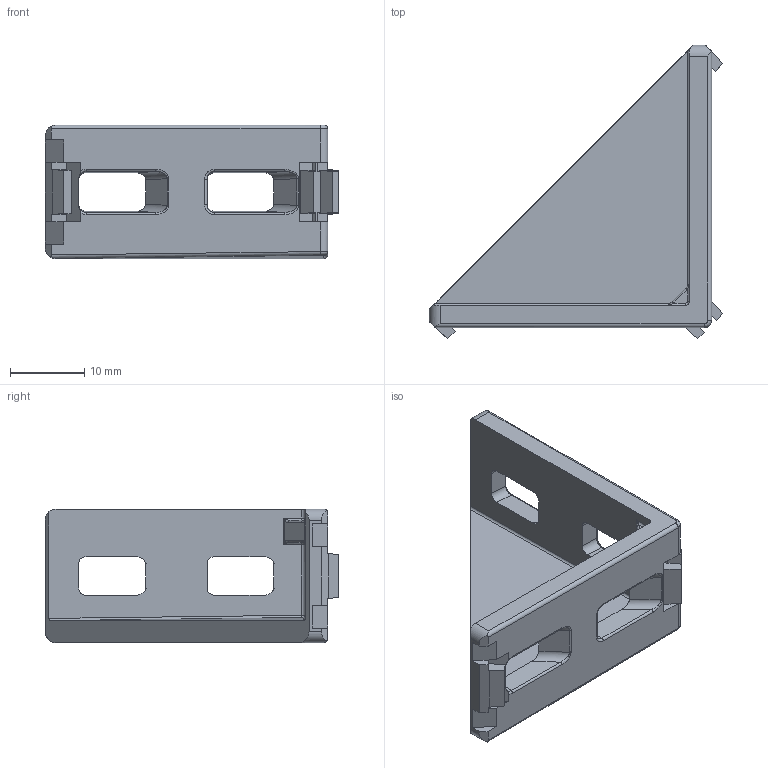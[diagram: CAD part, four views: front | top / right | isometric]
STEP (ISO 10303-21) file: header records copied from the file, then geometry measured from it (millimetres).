
FILE_DESCRIPTION (( 'STEP AP214' ), '1' );
FILE_NAME ('Transept Giltec-W64020AL.STEP', '2013-07-25T05:22:07', ( 'Windows User' ), ( '' ), 'SwSTEP 2.0', 'SolidWorks 2013', '' );
FILE_SCHEMA (( 'AUTOMOTIVE_DESIGN' ));
Length unit declared in the file: millimetre
Products named in the file (1): Transept Giltec-W64020AL
Bounding box: 39.5 x 39.5 x 18 mm (x, y, z)
Volume: 4922.6 mm3; surface area: 4282.8 mm2
Topology: 1 solids, 1 shells, 168 faces, 448 edges, 278 vertices
Faces by surface type: plane 82, cylinder 53, bspline 31, torus 2
Entity records: 6624 total; most frequent: CARTESIAN_POINT 2796, ORIENTED_EDGE 888, DIRECTION 649, EDGE_CURVE 444, LINE 279, VECTOR 279, VERTEX_POINT 278, AXIS2_PLACEMENT_3D 185
